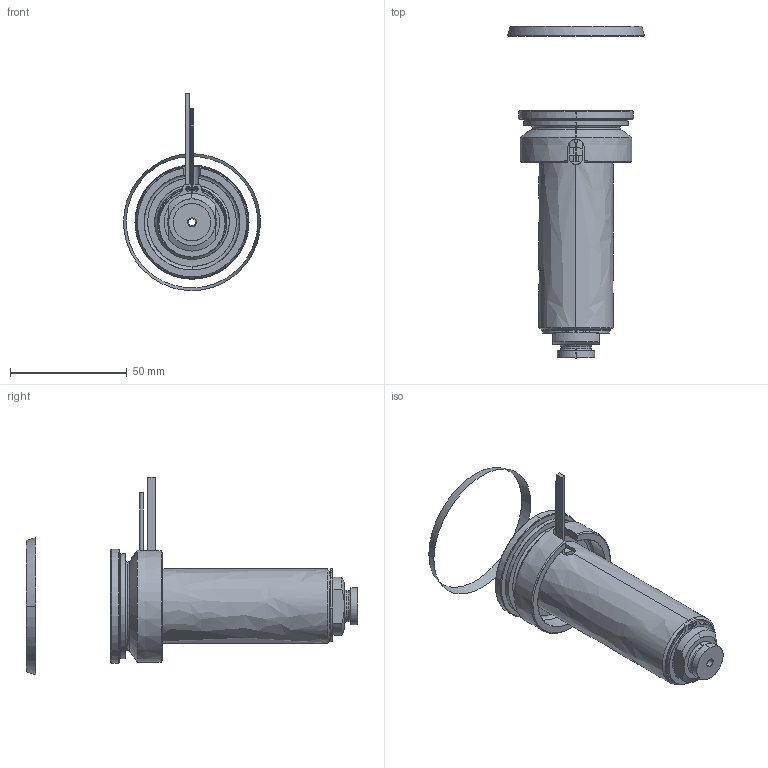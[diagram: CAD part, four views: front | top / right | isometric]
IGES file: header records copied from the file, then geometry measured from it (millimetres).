
Start section: SolidWorks IGES file using analytic representation for surfaces
Global section: file name: C:\Documents and Settings\ws-20\Desktop\TEMPORANEA\UGBE5002-S-A-3 [Ød-3.0 P-0 ØC-12].IGS; native system: SolidWorks 2012; preprocessor: SolidWorks 2012; author: ws-20; date: 120306.145213; units: millimetre
Bounding box: 58.79 x 142.44 x 84.69 mm (x, y, z)
Surface area: 41417.6 mm2 (no closed solid volume)
Topology: 0 solids, 0 shells, 111 faces, 2122 edges, 2122 vertices
Faces by surface type: revolution 68, bspline 43
